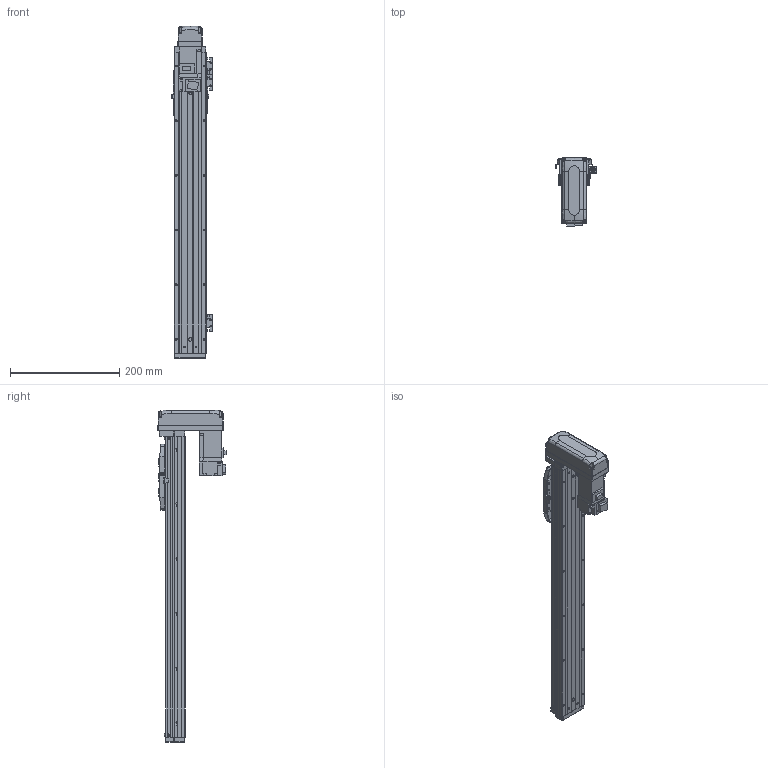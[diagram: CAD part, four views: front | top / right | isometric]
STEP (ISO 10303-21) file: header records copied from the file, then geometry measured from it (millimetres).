
FILE_DESCRIPTION (( 'STEP AP203' ), '1' );
FILE_NAME ('CTHA50-400-BM-M10-C4L.step', '2022-03-19T06:03:27', ( '微软用户' ), ( '微软中国' ), 'SwSTEP 2.0', 'SolidWorks 2020', '' );
FILE_SCHEMA (( 'CONFIG_CONTROL_DESIGN' ));
Length unit declared in the file: millimetre
Products named in the file (20): GBT 70.3-M3℅6; KTHA50-005; CTHA60-016; CTHA50-015-2_CTHA60-015-2; GB¨uT 70.2-M3¡Á6_M3¡Á6; CTHA60-021; CTHA60-033; EE_SX911P_R; HG-KR13（三菱）; GBT 70.1-M3×15; GBT77-2000 M3×3; CTHA50-002; CTHA50-400-BM-M10-C4L; GBT 70.1-M3℅6; CTHA50-030; KTHA50-001_550; CTHA60-017; CTHA50-031; KTHA50-004; GBT 70.1-M4×12
Assembly tree (60 placements, depth 2):
  CTHA50-400-BM-M10-C4L
    KTHA50-001_550
    KTHA50-004
    KTHA50-005
    GB¨uT 70.2-M3¡Á6_M3¡Á6  x10
    EE_SX911P_R  x3
    GBT77-2000 M3×3  x6
    GBT 70.1-M3℅6  x6
    CTHA60-017  x3
    GBT 70.1-M4×12  x10
    CTHA60-016  x2
    CTHA60-021  x2
    HG-KR13（三菱）
    CTHA50-002
    CTHA50-030  x2
    CTHA50-031
    GBT 70.3-M3℅6  x4
    CTHA50-015-2_CTHA60-015-2
    CTHA60-033
    GBT 70.1-M3×15  x4
Bounding box: 74.12 x 125.3 x 607 mm (x, y, z)
Volume: 1237265.6 mm3; surface area: 318617.6 mm2
Topology: 62 solids, 62 shells, 2513 faces, 5967 edges, 3654 vertices
Faces by surface type: plane 1422, cylinder 582, cone 351, torus 108, bspline 26, sphere 24
Entity records: 42685 total; most frequent: CARTESIAN_POINT 7883, DIRECTION 6645, ORIENTED_EDGE 6442, EDGE_CURVE 3221, VECTOR 2253, LINE 2253, AXIS2_PLACEMENT_3D 2196, VERTEX_POINT 2028
